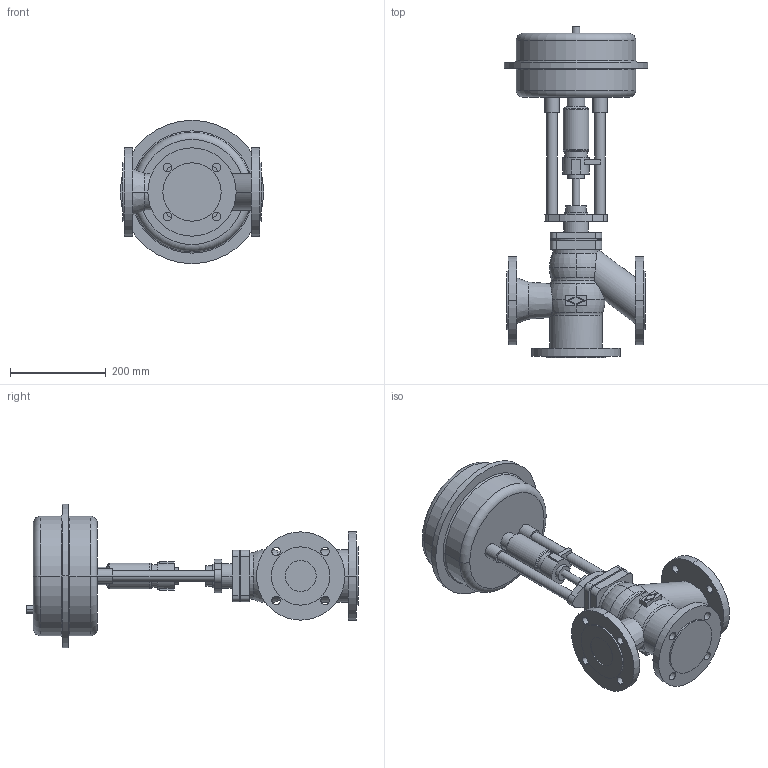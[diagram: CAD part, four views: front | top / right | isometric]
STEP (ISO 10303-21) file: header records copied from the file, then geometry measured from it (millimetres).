
FILE_DESCRIPTION(('OneSpaceDesigner STEP Export'),'2;1');
FILE_NAME('c000000666.stp','2006-09-19T10:03:33',(''),(''),'OneSpace Designer STEP processor for AP214 (Solid Model)','OneSpace Designer 13.20A 18-Aug-2005 (C) CoCreate Software GmbH','');
FILE_SCHEMA(('AUTOMOTIVE_DESIGN { 1 0 10303 214 1 1 1 1 }'));
Length unit declared in the file: millimetre
Products named in the file (2): 1; 2
Bounding box: 300 x 695.1 x 300 mm (x, y, z)
Volume: 12168665.2 mm3; surface area: 651212.4 mm2
Topology: 2 solids, 2 shells, 217 faces, 536 edges, 351 vertices
Faces by surface type: cylinder 94, plane 81, torus 34, cone 8
Entity records: 5774 total; most frequent: CARTESIAN_POINT 1103, ORIENTED_EDGE 1072, DIRECTION 836, EDGE_CURVE 536, VERTEX_POINT 351, AXIS2_PLACEMENT_3D 308, EDGE_LOOP 269, VECTOR 220
